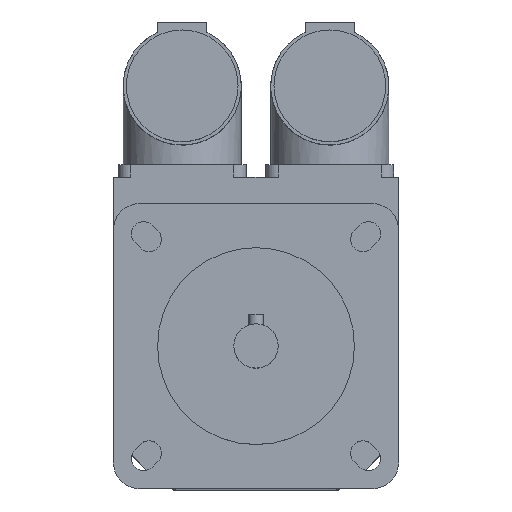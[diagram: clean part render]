
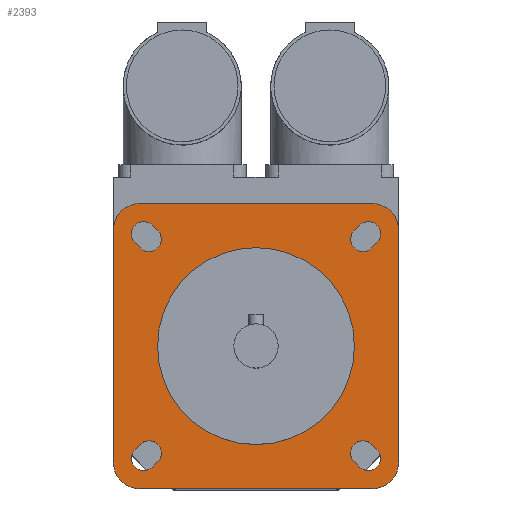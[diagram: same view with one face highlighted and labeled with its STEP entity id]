
A CAD part, top view. The second image highlights one B-rep face of the part: STEP entity #2393.
In plain terms, the highlighted planar face has unit normal (0, 0, 1).
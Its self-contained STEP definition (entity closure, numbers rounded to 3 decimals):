
#32=FACE_BOUND('',#432,.T.);
#33=FACE_BOUND('',#433,.T.);
#34=FACE_BOUND('',#434,.T.);
#35=FACE_BOUND('',#435,.T.);
#36=FACE_BOUND('',#436,.T.);
#51=CIRCLE('',#2486,20.);
#88=CIRCLE('',#2550,2.5);
#92=CIRCLE('',#2557,2.5);
#93=CIRCLE('',#2560,2.5);
#94=CIRCLE('',#2563,2.5);
#104=CIRCLE('',#2578,2.5);
#105=CIRCLE('',#2581,2.5);
#106=CIRCLE('',#2584,2.5);
#107=CIRCLE('',#2587,2.5);
#108=CIRCLE('',#2589,5.5);
#109=CIRCLE('',#2591,5.5);
#110=CIRCLE('',#2593,5.5);
#111=CIRCLE('',#2595,5.5);
#290=FACE_OUTER_BOUND('',#431,.T.);
#431=EDGE_LOOP('',(#1839,#1840,#1841,#1842,#1843,#1844,#1845,#1846));
#432=EDGE_LOOP('',(#1847));
#433=EDGE_LOOP('',(#1848,#1849,#1850,#1851));
#434=EDGE_LOOP('',(#1852,#1853,#1854,#1855));
#435=EDGE_LOOP('',(#1856,#1857,#1858,#1859));
#436=EDGE_LOOP('',(#1860,#1861,#1862,#1863));
#578=LINE('',#3719,#799);
#586=LINE('',#3743,#807);
#590=LINE('',#3753,#811);
#594=LINE('',#3763,#815);
#610=LINE('',#3814,#831);
#612=LINE('',#3820,#833);
#614=LINE('',#3826,#835);
#616=LINE('',#3832,#837);
#625=LINE('',#3860,#846);
#626=LINE('',#3861,#847);
#627=LINE('',#3862,#848);
#628=LINE('',#3863,#849);
#799=VECTOR('',#2944,1.5);
#807=VECTOR('',#2966,1.5);
#811=VECTOR('',#2976,1.5);
#815=VECTOR('',#2986,1.5);
#831=VECTOR('',#3032,1.5);
#833=VECTOR('',#3040,1.5);
#835=VECTOR('',#3048,1.5);
#837=VECTOR('',#3056,1.5);
#846=VECTOR('',#3087,47.);
#847=VECTOR('',#3088,47.);
#848=VECTOR('',#3089,47.);
#849=VECTOR('',#3090,47.);
#974=VERTEX_POINT('',#3540);
#1039=VERTEX_POINT('',#3716);
#1040=VERTEX_POINT('',#3718);
#1041=VERTEX_POINT('',#3722);
#1048=VERTEX_POINT('',#3740);
#1049=VERTEX_POINT('',#3742);
#1050=VERTEX_POINT('',#3746);
#1051=VERTEX_POINT('',#3750);
#1052=VERTEX_POINT('',#3752);
#1053=VERTEX_POINT('',#3756);
#1054=VERTEX_POINT('',#3760);
#1055=VERTEX_POINT('',#3762);
#1056=VERTEX_POINT('',#3766);
#1075=VERTEX_POINT('',#3812);
#1076=VERTEX_POINT('',#3818);
#1077=VERTEX_POINT('',#3824);
#1078=VERTEX_POINT('',#3830);
#1079=VERTEX_POINT('',#3836);
#1080=VERTEX_POINT('',#3838);
#1081=VERTEX_POINT('',#3842);
#1082=VERTEX_POINT('',#3844);
#1083=VERTEX_POINT('',#3848);
#1084=VERTEX_POINT('',#3850);
#1085=VERTEX_POINT('',#3854);
#1086=VERTEX_POINT('',#3856);
#1215=EDGE_CURVE('',#974,#974,#51,.T.);
#1301=EDGE_CURVE('',#1040,#1039,#578,.T.);
#1304=EDGE_CURVE('',#1039,#1041,#88,.T.);
#1313=EDGE_CURVE('',#1049,#1048,#586,.T.);
#1316=EDGE_CURVE('',#1048,#1050,#92,.T.);
#1318=EDGE_CURVE('',#1052,#1051,#590,.T.);
#1321=EDGE_CURVE('',#1051,#1053,#93,.T.);
#1323=EDGE_CURVE('',#1055,#1054,#594,.T.);
#1326=EDGE_CURVE('',#1054,#1056,#94,.T.);
#1349=EDGE_CURVE('',#1053,#1075,#610,.T.);
#1350=EDGE_CURVE('',#1075,#1052,#104,.T.);
#1352=EDGE_CURVE('',#1050,#1076,#612,.T.);
#1353=EDGE_CURVE('',#1076,#1049,#105,.T.);
#1355=EDGE_CURVE('',#1056,#1077,#614,.T.);
#1356=EDGE_CURVE('',#1077,#1055,#106,.T.);
#1358=EDGE_CURVE('',#1041,#1078,#616,.T.);
#1359=EDGE_CURVE('',#1078,#1040,#107,.T.);
#1361=EDGE_CURVE('',#1080,#1079,#108,.T.);
#1364=EDGE_CURVE('',#1082,#1081,#109,.T.);
#1367=EDGE_CURVE('',#1084,#1083,#110,.T.);
#1370=EDGE_CURVE('',#1086,#1085,#111,.T.);
#1372=EDGE_CURVE('',#1079,#1086,#625,.T.);
#1373=EDGE_CURVE('',#1085,#1084,#626,.T.);
#1374=EDGE_CURVE('',#1083,#1082,#627,.T.);
#1375=EDGE_CURVE('',#1081,#1080,#628,.T.);
#1839=ORIENTED_EDGE('',*,*,#1372,.T.);
#1840=ORIENTED_EDGE('',*,*,#1370,.T.);
#1841=ORIENTED_EDGE('',*,*,#1373,.T.);
#1842=ORIENTED_EDGE('',*,*,#1367,.T.);
#1843=ORIENTED_EDGE('',*,*,#1374,.T.);
#1844=ORIENTED_EDGE('',*,*,#1364,.T.);
#1845=ORIENTED_EDGE('',*,*,#1375,.T.);
#1846=ORIENTED_EDGE('',*,*,#1361,.T.);
#1847=ORIENTED_EDGE('',*,*,#1215,.T.);
#1848=ORIENTED_EDGE('',*,*,#1349,.T.);
#1849=ORIENTED_EDGE('',*,*,#1350,.T.);
#1850=ORIENTED_EDGE('',*,*,#1318,.T.);
#1851=ORIENTED_EDGE('',*,*,#1321,.T.);
#1852=ORIENTED_EDGE('',*,*,#1352,.T.);
#1853=ORIENTED_EDGE('',*,*,#1353,.T.);
#1854=ORIENTED_EDGE('',*,*,#1313,.T.);
#1855=ORIENTED_EDGE('',*,*,#1316,.T.);
#1856=ORIENTED_EDGE('',*,*,#1355,.T.);
#1857=ORIENTED_EDGE('',*,*,#1356,.T.);
#1858=ORIENTED_EDGE('',*,*,#1323,.T.);
#1859=ORIENTED_EDGE('',*,*,#1326,.T.);
#1860=ORIENTED_EDGE('',*,*,#1358,.T.);
#1861=ORIENTED_EDGE('',*,*,#1359,.T.);
#1862=ORIENTED_EDGE('',*,*,#1301,.T.);
#1863=ORIENTED_EDGE('',*,*,#1304,.T.);
#2297=PLANE('',#2596);
#2393=ADVANCED_FACE('',(#290,#32,#33,#34,#35,#36),#2297,.T.);
#2486=AXIS2_PLACEMENT_3D('',#3541,#2769,#2770);
#2550=AXIS2_PLACEMENT_3D('',#3724,#2949,#2950);
#2557=AXIS2_PLACEMENT_3D('',#3748,#2971,#2972);
#2560=AXIS2_PLACEMENT_3D('',#3758,#2981,#2982);
#2563=AXIS2_PLACEMENT_3D('',#3768,#2991,#2992);
#2578=AXIS2_PLACEMENT_3D('',#3816,#3035,#3036);
#2581=AXIS2_PLACEMENT_3D('',#3822,#3043,#3044);
#2584=AXIS2_PLACEMENT_3D('',#3828,#3051,#3052);
#2587=AXIS2_PLACEMENT_3D('',#3834,#3059,#3060);
#2589=AXIS2_PLACEMENT_3D('',#3839,#3064,#3065);
#2591=AXIS2_PLACEMENT_3D('',#3845,#3070,#3071);
#2593=AXIS2_PLACEMENT_3D('',#3851,#3076,#3077);
#2595=AXIS2_PLACEMENT_3D('',#3857,#3082,#3083);
#2596=AXIS2_PLACEMENT_3D('',#3859,#3085,#3086);
#2769=DIRECTION('center_axis',(0.,0.,-1.));
#2770=DIRECTION('ref_axis',(-1.,0.,0.));
#2944=DIRECTION('',(-0.707,-0.707,0.));
#2949=DIRECTION('center_axis',(0.,0.,-1.));
#2950=DIRECTION('ref_axis',(0.707,-0.707,0.));
#2966=DIRECTION('',(-0.707,0.707,0.));
#2971=DIRECTION('center_axis',(0.,0.,-1.));
#2972=DIRECTION('ref_axis',(-0.707,-0.707,0.));
#2976=DIRECTION('',(-0.707,-0.707,0.));
#2981=DIRECTION('center_axis',(0.,0.,-1.));
#2982=DIRECTION('ref_axis',(0.707,-0.707,0.));
#2986=DIRECTION('',(-0.707,0.707,0.));
#2991=DIRECTION('center_axis',(0.,0.,-1.));
#2992=DIRECTION('ref_axis',(-0.707,-0.707,0.));
#3032=DIRECTION('',(0.707,0.707,0.));
#3035=DIRECTION('center_axis',(0.,0.,-1.));
#3036=DIRECTION('ref_axis',(-0.707,0.707,0.));
#3040=DIRECTION('',(0.707,-0.707,0.));
#3043=DIRECTION('center_axis',(0.,0.,-1.));
#3044=DIRECTION('ref_axis',(0.707,0.707,0.));
#3048=DIRECTION('',(0.707,-0.707,0.));
#3051=DIRECTION('center_axis',(0.,0.,-1.));
#3052=DIRECTION('ref_axis',(0.707,0.707,0.));
#3056=DIRECTION('',(0.707,0.707,0.));
#3059=DIRECTION('center_axis',(0.,0.,-1.));
#3060=DIRECTION('ref_axis',(-0.707,0.707,0.));
#3064=DIRECTION('center_axis',(0.,0.,1.));
#3065=DIRECTION('ref_axis',(1.,0.,0.));
#3070=DIRECTION('center_axis',(0.,0.,1.));
#3071=DIRECTION('ref_axis',(0.,-1.,0.));
#3076=DIRECTION('center_axis',(0.,0.,1.));
#3077=DIRECTION('ref_axis',(-1.,0.,0.));
#3082=DIRECTION('center_axis',(0.,0.,1.));
#3083=DIRECTION('ref_axis',(0.,1.,0.));
#3085=DIRECTION('center_axis',(0.,0.,1.));
#3086=DIRECTION('ref_axis',(1.,0.,0.));
#3087=DIRECTION('',(-1.,0.,0.));
#3088=DIRECTION('',(0.,-1.,0.));
#3089=DIRECTION('',(1.,0.,0.));
#3090=DIRECTION('',(0.,1.,0.));
#3540=CARTESIAN_POINT('',(20.,0.,98.5));
#3541=CARTESIAN_POINT('Origin',(0.,0.,98.5));
#3716=CARTESIAN_POINT('',(-21.036,-24.572,98.5));
#3718=CARTESIAN_POINT('',(-19.976,-23.511,98.5));
#3719=CARTESIAN_POINT('',(-9.634,-13.17,98.5));
#3722=CARTESIAN_POINT('',(-24.572,-21.036,98.5));
#3724=CARTESIAN_POINT('Origin',(-22.804,-22.804,98.5));
#3740=CARTESIAN_POINT('',(-24.572,21.036,98.5));
#3742=CARTESIAN_POINT('',(-23.511,19.976,98.5));
#3743=CARTESIAN_POINT('',(-13.17,9.634,98.5));
#3746=CARTESIAN_POINT('',(-21.036,24.572,98.5));
#3748=CARTESIAN_POINT('Origin',(-22.804,22.804,98.5));
#3750=CARTESIAN_POINT('',(23.511,19.976,98.5));
#3752=CARTESIAN_POINT('',(24.572,21.036,98.5));
#3753=CARTESIAN_POINT('',(12.64,9.104,98.5));
#3756=CARTESIAN_POINT('',(19.976,23.511,98.5));
#3758=CARTESIAN_POINT('Origin',(21.744,21.744,98.5));
#3760=CARTESIAN_POINT('',(19.976,-23.511,98.5));
#3762=CARTESIAN_POINT('',(21.036,-24.572,98.5));
#3763=CARTESIAN_POINT('',(9.104,-12.64,98.5));
#3766=CARTESIAN_POINT('',(23.511,-19.976,98.5));
#3768=CARTESIAN_POINT('Origin',(21.744,-21.744,98.5));
#3812=CARTESIAN_POINT('',(21.036,24.572,98.5));
#3814=CARTESIAN_POINT('',(9.634,13.17,98.5));
#3816=CARTESIAN_POINT('Origin',(22.804,22.804,98.5));
#3818=CARTESIAN_POINT('',(-19.976,23.511,98.5));
#3820=CARTESIAN_POINT('',(-9.104,12.64,98.5));
#3822=CARTESIAN_POINT('Origin',(-21.744,21.744,98.5));
#3824=CARTESIAN_POINT('',(24.572,-21.036,98.5));
#3826=CARTESIAN_POINT('',(13.17,-9.634,98.5));
#3828=CARTESIAN_POINT('Origin',(22.804,-22.804,98.5));
#3830=CARTESIAN_POINT('',(-23.511,-19.976,98.5));
#3832=CARTESIAN_POINT('',(-12.64,-9.104,98.5));
#3834=CARTESIAN_POINT('Origin',(-21.744,-21.744,98.5));
#3836=CARTESIAN_POINT('',(23.5,29.,98.5));
#3838=CARTESIAN_POINT('',(29.,23.5,98.5));
#3839=CARTESIAN_POINT('Origin',(23.5,23.5,98.5));
#3842=CARTESIAN_POINT('',(29.,-23.5,98.5));
#3844=CARTESIAN_POINT('',(23.5,-29.,98.5));
#3845=CARTESIAN_POINT('Origin',(23.5,-23.5,98.5));
#3848=CARTESIAN_POINT('',(-23.5,-29.,98.5));
#3850=CARTESIAN_POINT('',(-29.,-23.5,98.5));
#3851=CARTESIAN_POINT('Origin',(-23.5,-23.5,98.5));
#3854=CARTESIAN_POINT('',(-29.,23.5,98.5));
#3856=CARTESIAN_POINT('',(-23.5,29.,98.5));
#3857=CARTESIAN_POINT('Origin',(-23.5,23.5,98.5));
#3859=CARTESIAN_POINT('Origin',(0.,0.,
98.5));
#3860=CARTESIAN_POINT('',(23.5,29.,98.5));
#3861=CARTESIAN_POINT('',(-29.,23.5,98.5));
#3862=CARTESIAN_POINT('',(-23.5,-29.,98.5));
#3863=CARTESIAN_POINT('',(29.,-23.5,98.5));
